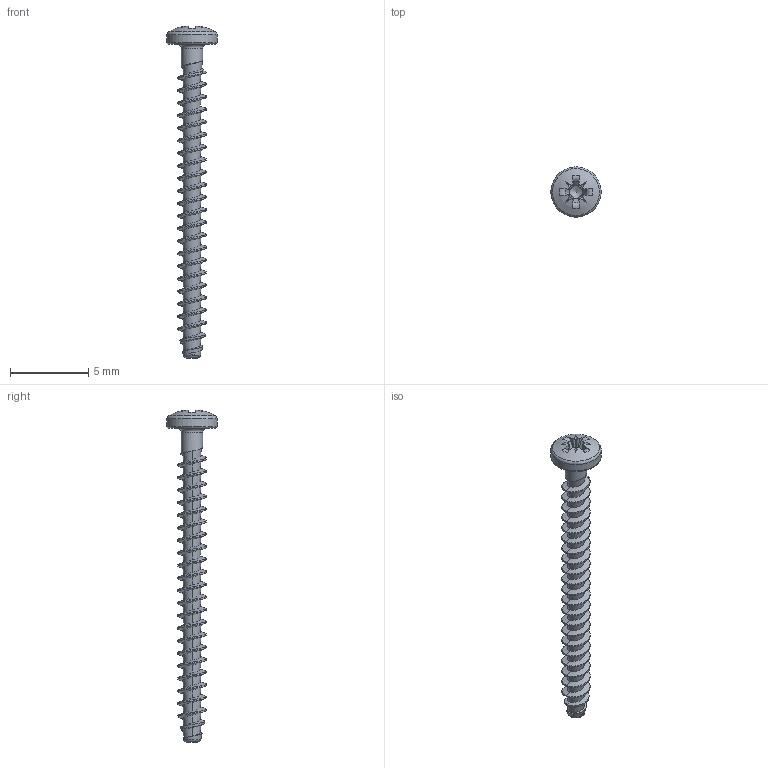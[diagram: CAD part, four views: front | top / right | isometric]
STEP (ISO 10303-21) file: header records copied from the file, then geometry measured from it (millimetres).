
FILE_DESCRIPTION(/* description */ (''),/* implementation_level */ '2;1');
FILE_NAME(/* name */ 'KN1032-STS-18x20-Z0.step',/* time_stamp */ '2017-10-16T13:48:16+02:00',/* author */ (''),/* organization */ (''),/* preprocessor_version */ 'ST-DEVELOPER v16',/* originating_system */ 'SIEMENS PLM Software NX 10.0',/* authorisation */ '');
FILE_SCHEMA (('AUTOMOTIVE_DESIGN { 1 0 10303 214 3 1 1 1 }'));
Length unit declared in the file: millimetre
Products named in the file (1): KN1032-STS-18x18-Z0
Bounding box: 3.2 x 3.2 x 21.16 mm (x, y, z)
Volume: 32.3 mm3; surface area: 157.9 mm2
Topology: 1 solids, 1 shells, 126 faces, 318 edges, 194 vertices
Faces by surface type: bspline 72, plane 26, cylinder 12, torus 8, cone 7, sphere 1
Full cylindrical faces by diameter (mm): 1.36 x1, 3.2 x1
Entity records: 8389 total; most frequent: CARTESIAN_POINT 5942, ORIENTED_EDGE 604, DIRECTION 303, EDGE_CURVE 302, VERTEX_POINT 188, B_SPLINE_CURVE_WITH_KNOTS 154, EDGE_LOOP 133, ADVANCED_FACE 125
